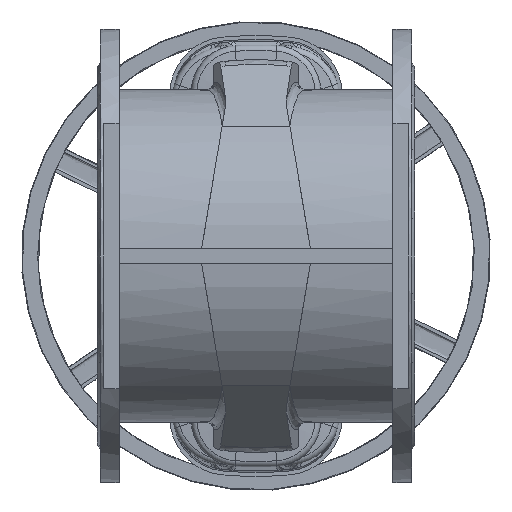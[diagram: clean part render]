
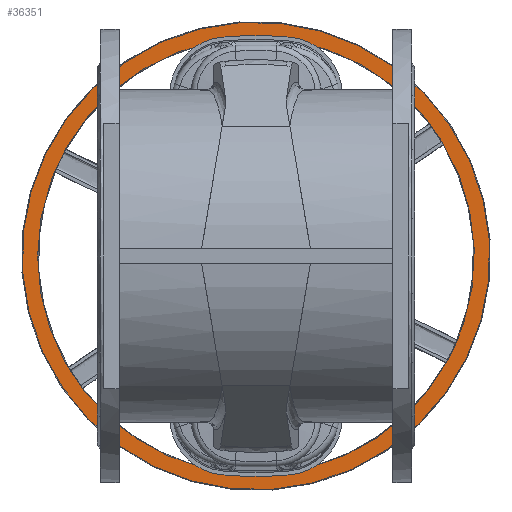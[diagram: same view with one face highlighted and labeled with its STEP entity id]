
A CAD part, front view. The second image highlights one B-rep face of the part: STEP entity #36351.
In plain terms, the highlighted planar face has unit normal (0, -1, 0).
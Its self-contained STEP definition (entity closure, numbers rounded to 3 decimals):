
#3867 = EDGE_CURVE ( 'NONE', #25830, #25830, #24764, .T. ) ;
#3870 = EDGE_CURVE ( 'NONE', #25831, #25831, #24765, .T. ) ;
#18158 = ORIENTED_EDGE ( 'NONE', *, *, #3867, .F. ) ;
#18161 = ORIENTED_EDGE ( 'NONE', *, *, #3870, .F. ) ;
#20331 = CARTESIAN_POINT ( 'NONE',  ( 0., 1236., 0. ) ) ;
#20332 = DIRECTION ( 'NONE',  ( 0., 1., 0. ) ) ;
#20333 = DIRECTION ( 'NONE',  ( -0.899, 0., 0.438 ) ) ;
#20335 = CARTESIAN_POINT ( 'NONE',  ( 0., 1236., 0. ) ) ;
#20336 = DIRECTION ( 'NONE',  ( 0., -1., 0. ) ) ;
#20337 = DIRECTION ( 'NONE',  ( -1., 0., 0. ) ) ;
#23437 = EDGE_LOOP ( 'NONE', ( #18161 ) ) ;
#23438 = EDGE_LOOP ( 'NONE', ( #18158 ) ) ;
#24585 = CARTESIAN_POINT ( 'NONE',  ( -268.893, 1236., 131.022 ) ) ;
#24586 = CARTESIAN_POINT ( 'NONE',  ( -279.221, 1236., 0. ) ) ;
#24764 = CIRCLE ( 'NONE', #30341, 299.116 ) ;
#24765 = CIRCLE ( 'NONE', #30342, 279.221 ) ;
#25830 = VERTEX_POINT ( 'NONE', #24585 ) ;
#25831 = VERTEX_POINT ( 'NONE', #24586 ) ;
#30341 = AXIS2_PLACEMENT_3D ( 'NONE', #20331, #20332, #20333 ) ;
#30342 = AXIS2_PLACEMENT_3D ( 'NONE', #20335, #20336, #20337 ) ;
#36101 = FACE_OUTER_BOUND ( 'NONE', #23438, .T. ) ;
#36102 = FACE_BOUND ( 'NONE', #23437, .T. ) ;
#36351 = ADVANCED_FACE ( 'NONE', ( #36101, #36102 ), #44851, .F. ) ;
#42392 = AXIS2_PLACEMENT_3D ( 'NONE', #44849, #44853, #44854 ) ;
#44849 = CARTESIAN_POINT ( 'NONE',  ( 265.297, 1236., -129.27 ) ) ;
#44851 = PLANE ( 'NONE',  #42392 ) ;
#44853 = DIRECTION ( 'NONE',  ( 0., 1., 0. ) ) ;
#44854 = DIRECTION ( 'NONE',  ( -0.899, 0., 0.438 ) ) ;
